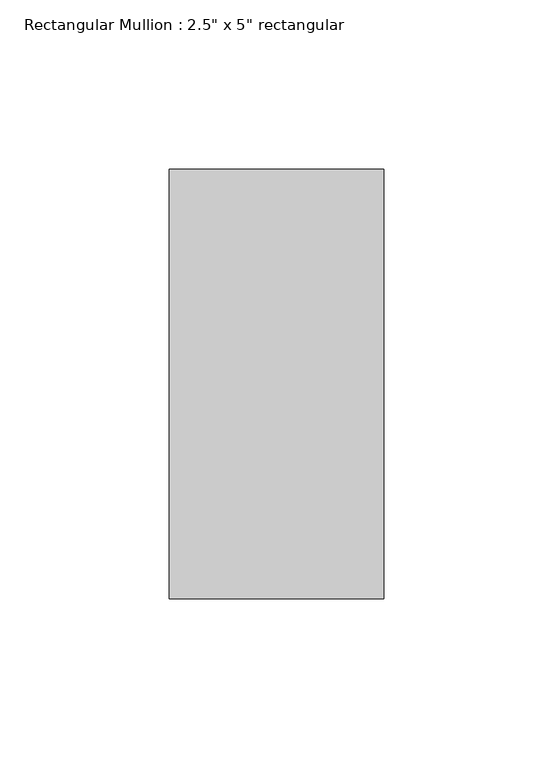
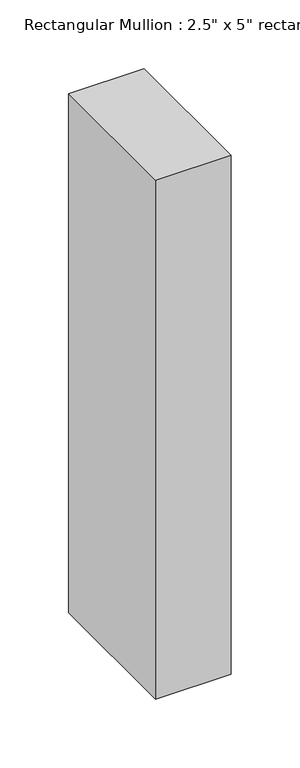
"""IFC4 building model written with IfcOpenShell, lengths in millimetres: member geometry."""

from ifc_helpers import new_model, si_unit, frame, origin, place, context, project, spatial, polyline, outline, extrude, source, transform, mapped, element, save


def member_0913546c(model_context):
    return source(origin(), model_context, "Body", "SweptSolid", [
        extrude(outline(polyline([(31.75, 63.5), (31.75, -63.5), (-31.75, -63.5), (-31.75, 63.5), (31.75, 63.5)])), frame((0.0, 0.0, -461.1100469), z_axis=(0.0, 0.0, 1.0), x_axis=(1.0, 0.0, 0.0)), (0.0, 0.0, 1.0), 461.1100469),
    ])


if __name__ == "__main__":
    model = new_model("IFC4")
    model_context = context("Model", 3, world=origin())
    ifc_project = project(units=[si_unit("LENGTHUNIT", "METRE", prefix="MILLI")], contexts=[model_context])
    site = spatial("IfcSite", under=ifc_project)
    building = spatial("IfcBuilding", under=site)
    placement = place(None, origin())
    member_shape = member_0913546c(model_context)
    element("IfcMember", 1, ObjectType="Rectangular Mullion : 2.5\" x 5\" rectangular", at=placement, inside=building, context=model_context, shape_type="MappedRepresentation", body=[
        mapped(member_shape, transform((0.0, 0.0, 0.0), x_axis=(1.0, 0.0, 0.0), y_axis=(0.0, 1.0, 0.0), z_axis=(0.0, 0.0, 1.0))),
    ])
    save(model, "model.ifc")
